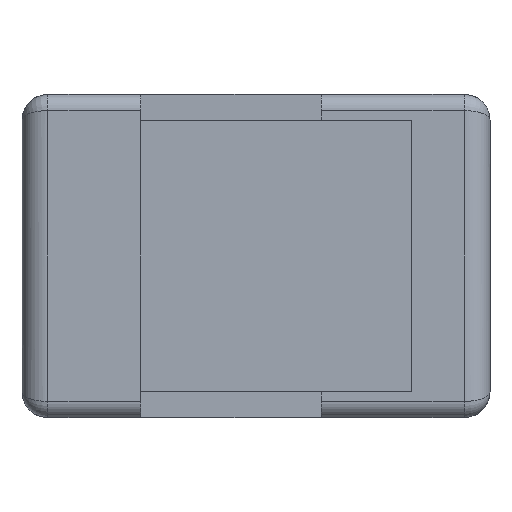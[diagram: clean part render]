
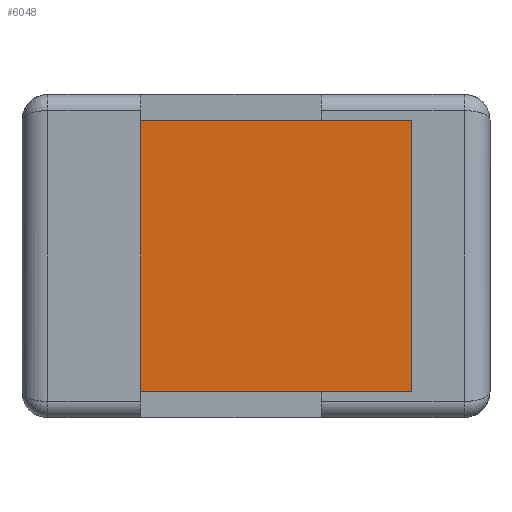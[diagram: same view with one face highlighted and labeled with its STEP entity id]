
A CAD part, left-side view. The second image highlights one B-rep face of the part: STEP entity #6048.
In plain terms, the highlighted planar face has unit normal (-1, 0, 0).
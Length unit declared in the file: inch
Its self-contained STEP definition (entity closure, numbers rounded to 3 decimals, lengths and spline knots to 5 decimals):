
#493=DIRECTION('',(0.,-1.,0.));
#494=VECTOR('',#493,0.39862);
#495=CARTESIAN_POINT('',(0.90688,1.3377,0.36614));
#496=LINE('',#495,#494);
#497=DIRECTION('',(0.,1.,0.));
#498=VECTOR('',#497,0.39862);
#499=CARTESIAN_POINT('',(0.90688,0.93908,
0.69724));
#500=LINE('',#499,#498);
#525=DIRECTION('',(0.,0.,1.));
#526=VECTOR('',#525,0.3311);
#527=CARTESIAN_POINT('',(0.90688,1.3377,0.36614));
#528=LINE('',#527,#526);
#541=DIRECTION('',(0.,0.,-1.));
#542=VECTOR('',#541,0.3311);
#543=CARTESIAN_POINT('',(0.90688,0.93908,
0.69724));
#544=LINE('',#543,#542);
#3560=CARTESIAN_POINT('',(0.90688,0.93908,
0.36614));
#3562=VERTEX_POINT('',#3560);
#3563=CARTESIAN_POINT('',(0.90688,0.93908,
0.69724));
#3564=VERTEX_POINT('',#3563);
#3578=CARTESIAN_POINT('',(0.90688,1.3377,
0.69724));
#3580=VERTEX_POINT('',#3578);
#3776=CARTESIAN_POINT('',(0.90688,1.3377,
0.36614));
#3777=VERTEX_POINT('',#3776);
#6034=CARTESIAN_POINT('',(0.90688,1.16054,
0.38583));
#6035=DIRECTION('',(1.,0.,0.));
#6036=DIRECTION('',(0.,0.,1.));
#6037=AXIS2_PLACEMENT_3D('',#6034,#6035,#6036);
#6038=PLANE('',#6037);
#6040=ORIENTED_EDGE('',*,*,#6039,.F.);
#6042=ORIENTED_EDGE('',*,*,#6041,.T.);
#6043=ORIENTED_EDGE('',*,*,#6011,.F.);
#6045=ORIENTED_EDGE('',*,*,#6044,.T.);
#6046=EDGE_LOOP('',(#6040,#6042,#6043,#6045));
#6047=FACE_OUTER_BOUND('',#6046,.F.);
#6048=ADVANCED_FACE('',(#6047),#6038,.F.);
#6011=EDGE_CURVE('',#3564,#3580,#500,.T.);
#6039=EDGE_CURVE('',#3777,#3562,#496,.T.);
#6041=EDGE_CURVE('',#3777,#3580,#528,.T.);
#6044=EDGE_CURVE('',#3564,#3562,#544,.T.);
